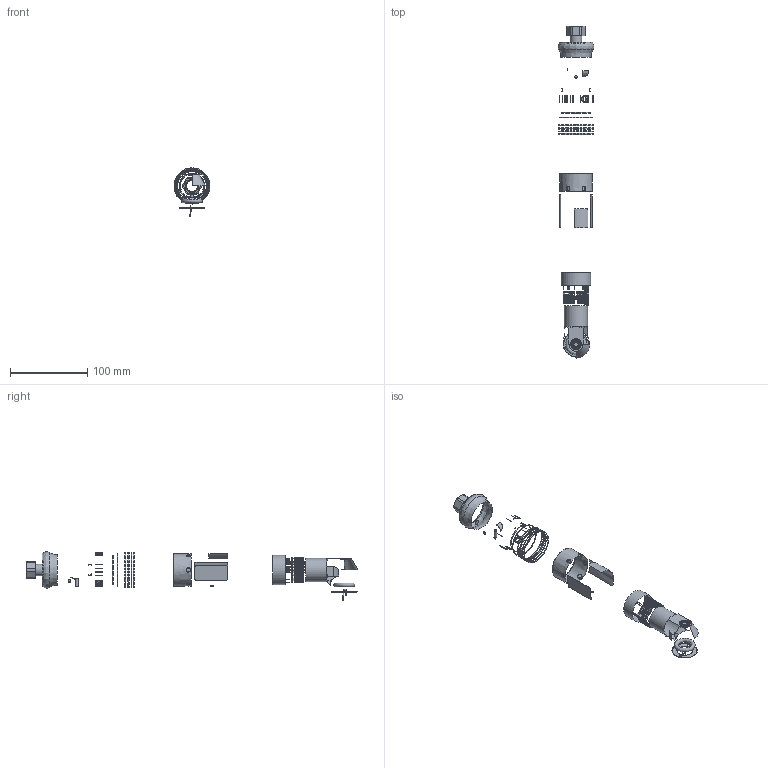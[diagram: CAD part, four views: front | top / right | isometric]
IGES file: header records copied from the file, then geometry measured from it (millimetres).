
Global section: file name: T:\siji\siji2\QA6 angle stall\45498292\45498292.igs; native system: Unigraphics Version X V2.0; preprocessor: Unigraphics NX IGES V2.0; date: 20070515.091446; units: inch
Bounding box: 46.21 x 429.34 x 62.62 mm (x, y, z)
Surface area: 21387.7 mm2 (no closed solid volume)
Topology: 0 solids, 0 shells, 357 faces, 2775 edges, 2743 vertices
Faces by surface type: revolution 283, extrusion 72, bspline 2
